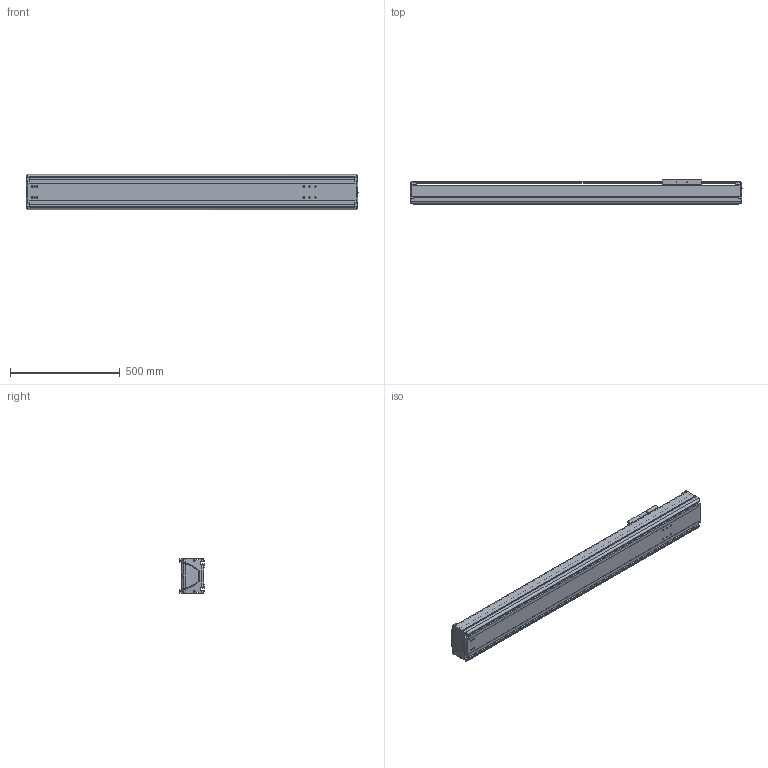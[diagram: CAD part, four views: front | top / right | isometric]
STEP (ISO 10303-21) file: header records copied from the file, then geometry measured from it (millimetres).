
FILE_DESCRIPTION((''),'2;1');
FILE_NAME('BE50G-ST-M_B-B0_IGS_PRT','2017-06-18T',(' '),(''),'PRO/ENGINEER BY PARAMETRIC TECHNOLOGY CORPORATION, 2015030','PRO/ENGINEER BY PARAMETRIC TECHNOLOGY CORPORATION, 2015030','');
FILE_SCHEMA(('CONFIG_CONTROL_DESIGN'));
Length unit declared in the file: millimetre
Products named in the file (1): BE50G-ST-M_B-B0_IGS_PRT
Bounding box: 1514.98 x 110 x 160 mm (x, y, z)
Volume: 6651514.6 mm3; surface area: 2280722.8 mm2
Topology: 2 solids, 91 shells, 1672 faces, 4442 edges, 2847 vertices
Faces by surface type: cylinder 738, plane 629, bspline 102, torus 87, cone 76, sphere 40
Entity records: 57587 total; most frequent: CARTESIAN_POINT 16550, ORIENTED_EDGE 8468, DIRECTION 8372, EDGE_CURVE 4412, AXIS2_PLACEMENT_3D 3128, VERTEX_POINT 2839, VECTOR 2116, LINE 2116
